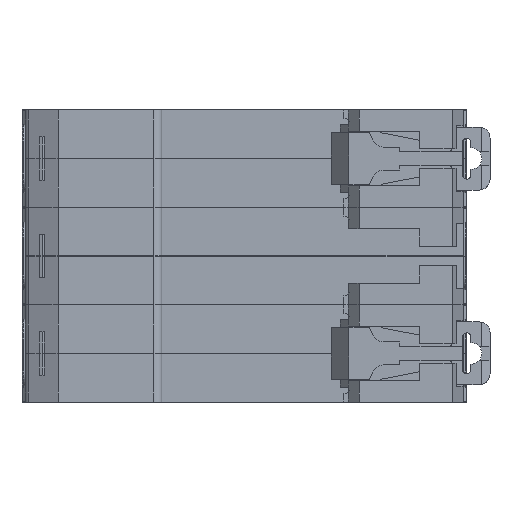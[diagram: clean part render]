
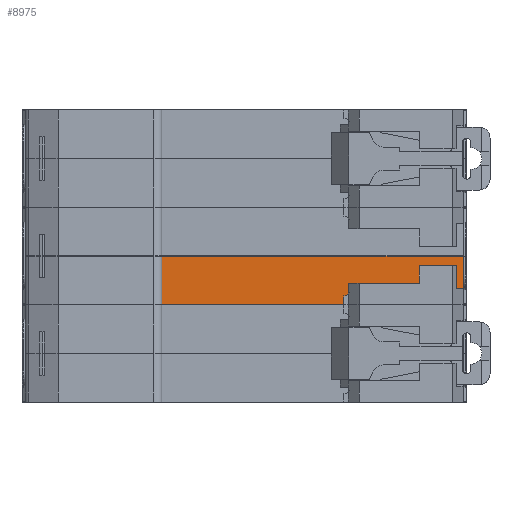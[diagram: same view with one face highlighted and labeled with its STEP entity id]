
A CAD part, front view. The second image highlights one B-rep face of the part: STEP entity #8975.
In plain terms, the highlighted planar face has unit normal (0, -1, 0).
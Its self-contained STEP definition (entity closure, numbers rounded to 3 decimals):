
#521 = VERTEX_POINT ( 'NONE', #41099 ) ;
#759 = CARTESIAN_POINT ( 'NONE',  ( 22.2, 0., -0.15 ) ) ;
#1119 = EDGE_CURVE ( 'NONE', #33000, #23007, #42216, .T. ) ;
#1430 = VECTOR ( 'NONE', #37942, 1000. ) ;
#1641 = ORIENTED_EDGE ( 'NONE', *, *, #15768, .T. ) ;
#2139 = VECTOR ( 'NONE', #37207, 1000. ) ;
#2209 = CARTESIAN_POINT ( 'NONE',  ( -13.5, 0., 8.75 ) ) ;
#2606 = VECTOR ( 'NONE', #22055, 1000. ) ;
#2620 = VECTOR ( 'NONE', #30376, 1000. ) ;
#3161 = EDGE_CURVE ( 'NONE', #45024, #16320, #22899, .T. ) ;
#3359 = CARTESIAN_POINT ( 'NONE',  ( 34.2, 0., 2.75 ) ) ;
#3588 = VERTEX_POINT ( 'NONE', #14877 ) ;
#4086 = CARTESIAN_POINT ( 'NONE',  ( 25.7, 0., 2.45 ) ) ;
#5325 = EDGE_CURVE ( 'NONE', #3588, #37230, #26095, .T. ) ;
#5705 = ORIENTED_EDGE ( 'NONE', *, *, #18428, .F. ) ;
#6154 = CARTESIAN_POINT ( 'NONE',  ( -13.5, 0., 1.6 ) ) ;
#6416 = ORIENTED_EDGE ( 'NONE', *, *, #3161, .T. ) ;
#7008 = VECTOR ( 'NONE', #44916, 1000. ) ;
#8245 = VECTOR ( 'NONE', #20180, 1000. ) ;
#8386 = ORIENTED_EDGE ( 'NONE', *, *, #33573, .T. ) ;
#8390 = LINE ( 'NONE', #19403, #32103 ) ;
#8475 = VERTEX_POINT ( 'NONE', #25695 ) ;
#8819 = ORIENTED_EDGE ( 'NONE', *, *, #34433, .T. ) ;
#8975 = ADVANCED_FACE ( 'NONE', ( #13621 ), #28206, .F. ) ;
#9246 = EDGE_CURVE ( 'NONE', #23007, #15799, #29261, .T. ) ;
#9959 = LINE ( 'NONE', #3359, #35925 ) ;
#10996 = VECTOR ( 'NONE', #24081, 1000. ) ;
#11030 = EDGE_LOOP ( 'NONE', ( #8386, #20733, #24943, #21176, #1641, #17346, #5705, #40059, #36255, #18705, #13826, #15648, #6416, #8819 ) ) ;
#11856 = VERTEX_POINT ( 'NONE', #40595 ) ;
#12164 = LINE ( 'NONE', #2209, #1430 ) ;
#12856 = CARTESIAN_POINT ( 'NONE',  ( 22.2, 0., 1.6 ) ) ;
#13621 = FACE_OUTER_BOUND ( 'NONE', #11030, .T. ) ;
#13650 = VERTEX_POINT ( 'NONE', #19356 ) ;
#13826 = ORIENTED_EDGE ( 'NONE', *, *, #36931, .T. ) ;
#14090 = VECTOR ( 'NONE', #29234, 1000. ) ;
#14877 = CARTESIAN_POINT ( 'NONE',  ( 23.539, 0., 2.45 ) ) ;
#14991 = VECTOR ( 'NONE', #27912, 1000. ) ;
#15648 = ORIENTED_EDGE ( 'NONE', *, *, #32705, .T. ) ;
#15768 = EDGE_CURVE ( 'NONE', #521, #27759, #29417, .T. ) ;
#15799 = VERTEX_POINT ( 'NONE', #17470 ) ;
#16073 = CARTESIAN_POINT ( 'NONE',  ( 29.2, 0., 2.25 ) ) ;
#16320 = VERTEX_POINT ( 'NONE', #35130 ) ;
#16554 = EDGE_CURVE ( 'NONE', #8475, #3588, #45793, .T. ) ;
#17257 = CARTESIAN_POINT ( 'NONE',  ( 25.7, 0., 2.45 ) ) ;
#17346 = ORIENTED_EDGE ( 'NONE', *, *, #41631, .F. ) ;
#17470 = CARTESIAN_POINT ( 'NONE',  ( 34.2, 0., 2.75 ) ) ;
#18428 = EDGE_CURVE ( 'NONE', #13650, #46546, #33161, .T. ) ;
#18705 = ORIENTED_EDGE ( 'NONE', *, *, #5325, .T. ) ;
#19087 = EDGE_CURVE ( 'NONE', #521, #33000, #12164, .T. ) ;
#19356 = CARTESIAN_POINT ( 'NONE',  ( 22.2, 0., 1.45 ) ) ;
#19402 = LINE ( 'NONE', #19543, #7008 ) ;
#19403 = CARTESIAN_POINT ( 'NONE',  ( 25.7, 0., 1.95 ) ) ;
#19543 = CARTESIAN_POINT ( 'NONE',  ( 22.7, 0., 1.45 ) ) ;
#19910 = CARTESIAN_POINT ( 'NONE',  ( 25.7, 0., 1.95 ) ) ;
#20180 = DIRECTION ( 'NONE',  ( 0.959, 0., 0.284 ) ) ;
#20357 = CARTESIAN_POINT ( 'NONE',  ( 25.7, 0., 2.45 ) ) ;
#20733 = ORIENTED_EDGE ( 'NONE', *, *, #9246, .F. ) ;
#21087 = DIRECTION ( 'NONE',  ( 0., 0., -1. ) ) ;
#21125 = DIRECTION ( 'NONE',  ( 1., 0., 0. ) ) ;
#21147 = LINE ( 'NONE', #38014, #10996 ) ;
#21176 = ORIENTED_EDGE ( 'NONE', *, *, #19087, .F. ) ;
#21819 = LINE ( 'NONE', #20357, #14991 ) ;
#22055 = DIRECTION ( 'NONE',  ( -1., 0., 0. ) ) ;
#22899 = LINE ( 'NONE', #16073, #8245 ) ;
#22974 = VECTOR ( 'NONE', #21087, 1000. ) ;
#23007 = VERTEX_POINT ( 'NONE', #36543 ) ;
#23834 = DIRECTION ( 'NONE',  ( 0., 0., -1. ) ) ;
#24081 = DIRECTION ( 'NONE',  ( 0.952, 0., -0.305 ) ) ;
#24555 = DIRECTION ( 'NONE',  ( 1., 0., 0. ) ) ;
#24943 = ORIENTED_EDGE ( 'NONE', *, *, #1119, .F. ) ;
#25695 = CARTESIAN_POINT ( 'NONE',  ( 22.7, 0., 1.45 ) ) ;
#26095 = LINE ( 'NONE', #17257, #33958 ) ;
#27759 = VERTEX_POINT ( 'NONE', #31263 ) ;
#27912 = DIRECTION ( 'NONE',  ( 0., 0., -1. ) ) ;
#28206 = PLANE ( 'NONE',  #32650 ) ;
#28907 = DIRECTION ( 'NONE',  ( 0.887, 0., 0.461 ) ) ;
#29234 = DIRECTION ( 'NONE',  ( 0.643, 0., 0.766 ) ) ;
#29261 = LINE ( 'NONE', #36729, #2139 ) ;
#29417 = LINE ( 'NONE', #6154, #32830 ) ;
#30376 = DIRECTION ( 'NONE',  ( 0., 0., -1. ) ) ;
#31263 = CARTESIAN_POINT ( 'NONE',  ( -13.5, 0., -0.15 ) ) ;
#31663 = CARTESIAN_POINT ( 'NONE',  ( 44., 0., 1.6 ) ) ;
#31853 = CARTESIAN_POINT ( 'NONE',  ( 0., 0., 1.6 ) ) ;
#32048 = CARTESIAN_POINT ( 'NONE',  ( 44., 0., 8.75 ) ) ;
#32103 = VECTOR ( 'NONE', #36834, 1000. ) ;
#32275 = CARTESIAN_POINT ( 'NONE',  ( 23.539, 0., 2.45 ) ) ;
#32650 = AXIS2_PLACEMENT_3D ( 'NONE', #31853, #39142, #21125 ) ;
#32705 = EDGE_CURVE ( 'NONE', #38107, #45024, #8390, .T. ) ;
#32830 = VECTOR ( 'NONE', #23834, 1000. ) ;
#33000 = VERTEX_POINT ( 'NONE', #32048 ) ;
#33161 = LINE ( 'NONE', #12856, #2620 ) ;
#33573 = EDGE_CURVE ( 'NONE', #11856, #15799, #9959, .T. ) ;
#33958 = VECTOR ( 'NONE', #24555, 1000. ) ;
#34345 = CARTESIAN_POINT ( 'NONE',  ( 26.5, 0., 1.45 ) ) ;
#34433 = EDGE_CURVE ( 'NONE', #16320, #11856, #21147, .T. ) ;
#35130 = CARTESIAN_POINT ( 'NONE',  ( 29.2, 0., 2.25 ) ) ;
#35925 = VECTOR ( 'NONE', #28907, 1000. ) ;
#36255 = ORIENTED_EDGE ( 'NONE', *, *, #16554, .T. ) ;
#36543 = CARTESIAN_POINT ( 'NONE',  ( 44., 0., 2.75 ) ) ;
#36729 = CARTESIAN_POINT ( 'NONE',  ( 22.2, 0., 2.75 ) ) ;
#36834 = DIRECTION ( 'NONE',  ( 0.848, 0., -0.53 ) ) ;
#36931 = EDGE_CURVE ( 'NONE', #37230, #38107, #21819, .T. ) ;
#37207 = DIRECTION ( 'NONE',  ( -1., 0., 0. ) ) ;
#37230 = VERTEX_POINT ( 'NONE', #4086 ) ;
#37942 = DIRECTION ( 'NONE',  ( 1., 0., 0. ) ) ;
#38014 = CARTESIAN_POINT ( 'NONE',  ( 29.2, 0., 2.25 ) ) ;
#38107 = VERTEX_POINT ( 'NONE', #19910 ) ;
#39142 = DIRECTION ( 'NONE',  ( 0., 1., 0. ) ) ;
#39938 = LINE ( 'NONE', #43729, #2606 ) ;
#40059 = ORIENTED_EDGE ( 'NONE', *, *, #46039, .T. ) ;
#40595 = CARTESIAN_POINT ( 'NONE',  ( 31.7, 0., 1.45 ) ) ;
#41099 = CARTESIAN_POINT ( 'NONE',  ( -13.5, 0., 8.75 ) ) ;
#41631 = EDGE_CURVE ( 'NONE', #46546, #27759, #39938, .T. ) ;
#42216 = LINE ( 'NONE', #31663, #22974 ) ;
#43729 = CARTESIAN_POINT ( 'NONE',  ( 8.683, 0., -0.15 ) ) ;
#44916 = DIRECTION ( 'NONE',  ( 1., 0., 0. ) ) ;
#45024 = VERTEX_POINT ( 'NONE', #34345 ) ;
#45793 = LINE ( 'NONE', #32275, #14090 ) ;
#46039 = EDGE_CURVE ( 'NONE', #13650, #8475, #19402, .T. ) ;
#46546 = VERTEX_POINT ( 'NONE', #759 ) ;
